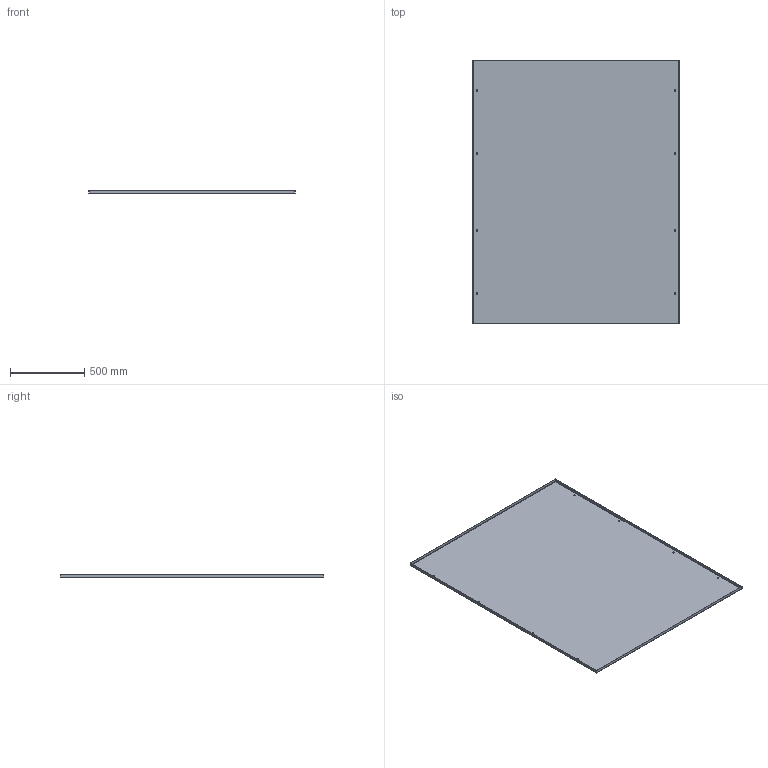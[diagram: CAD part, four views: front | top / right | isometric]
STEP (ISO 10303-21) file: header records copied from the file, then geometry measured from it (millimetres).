
FILE_DESCRIPTION (( 'STEP AP214' ), '1' );
FILE_NAME ('Ïàíåëü çàäíÿÿ OptiBox M-1800õ1400 (259465).STEP', '2018-07-06T07:39:28', ( '' ), ( '' ), 'SwSTEP 2.0', 'SolidWorks 2018', '' );
FILE_SCHEMA (( 'AUTOMOTIVE_DESIGN' ));
Length unit declared in the file: millimetre
Products named in the file (1): Ïàíåëü çàäíÿÿ OptiBox M-1800õ1400 (259465)
Bounding box: 1393 x 1781 x 21 mm (x, y, z)
Volume: 3896571.2 mm3; surface area: 5205565.3 mm2
Topology: 1 solids, 1 shells, 54 faces, 124 edges, 72 vertices
Faces by surface type: cylinder 24, plane 22, bspline 8
Entity records: 2332 total; most frequent: CARTESIAN_POINT 1113, ORIENTED_EDGE 248, DIRECTION 222, EDGE_CURVE 124, AXIS2_PLACEMENT_3D 79, VERTEX_POINT 72, EDGE_LOOP 70, LINE 64
